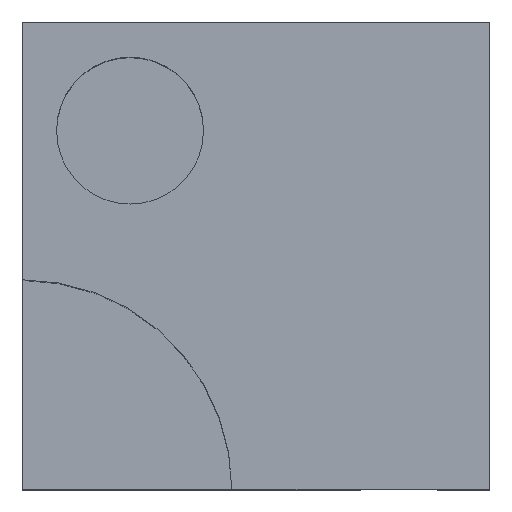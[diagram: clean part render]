
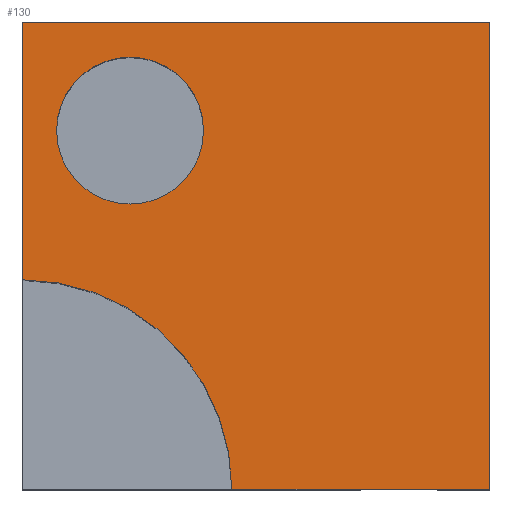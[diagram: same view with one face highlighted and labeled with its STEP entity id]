
A CAD part, top view. The second image highlights one B-rep face of the part: STEP entity #130.
In plain terms, the highlighted planar face has unit normal (0, 0, 1).
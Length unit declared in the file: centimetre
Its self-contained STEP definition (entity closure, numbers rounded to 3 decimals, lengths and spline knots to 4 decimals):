
#9 = EDGE_CURVE ( 'NONE', #236, #337, #165, .T. ) ;
#22 = CARTESIAN_POINT ( 'NONE',  ( 387.7069, 767.5334, 1000. ) ) ;
#27 = VERTEX_POINT ( 'NONE', #455 ) ;
#31 = CARTESIAN_POINT ( 'NONE',  ( 73.1794, 767.5334, 1000. ) ) ;
#32 = ORIENTED_EDGE ( 'NONE', *, *, #371, .T. ) ;
#36 = VERTEX_POINT ( 'NONE', #268 ) ;
#39 = DIRECTION ( 'NONE',  ( 1., 0., 0. ) ) ;
#68 = VERTEX_POINT ( 'NONE', #179 ) ;
#84 = AXIS2_PLACEMENT_3D ( 'NONE', #232, #421, #260 ) ;
#93 = DIRECTION ( 'NONE',  ( 1., 0., 0. ) ) ;
#102 = ORIENTED_EDGE ( 'NONE', *, *, #282, .F. ) ;
#118 = VECTOR ( 'NONE', #197, 100. ) ;
#130 = ADVANCED_FACE ( 'NONE', ( #499, #430 ), #425, .T. ) ;
#132 = CARTESIAN_POINT ( 'NONE',  ( 0., 1000., 1000. ) ) ;
#134 = LINE ( 'NONE', #132, #471 ) ;
#139 = VECTOR ( 'NONE', #375, 100. ) ;
#149 = DIRECTION ( 'NONE',  ( 1., 0., 0. ) ) ;
#154 = VERTEX_POINT ( 'NONE', #333 ) ;
#163 = VERTEX_POINT ( 'NONE', #234 ) ;
#165 = CIRCLE ( 'NONE', #330, 157.2638 ) ;
#179 = CARTESIAN_POINT ( 'NONE',  ( 1000., 0., 1000. ) ) ;
#192 = ORIENTED_EDGE ( 'NONE', *, *, #418, .F. ) ;
#197 = DIRECTION ( 'NONE',  ( 0., 1., 0. ) ) ;
#198 = ORIENTED_EDGE ( 'NONE', *, *, #287, .T. ) ;
#203 = AXIS2_PLACEMENT_3D ( 'NONE', #257, #458, #149 ) ;
#205 = ORIENTED_EDGE ( 'NONE', *, *, #486, .T. ) ;
#232 = CARTESIAN_POINT ( 'NONE',  ( 0., 0., 1000. ) ) ;
#234 = CARTESIAN_POINT ( 'NONE',  ( 1000., 1000., 1000. ) ) ;
#235 = AXIS2_PLACEMENT_3D ( 'NONE', #288, #448, #93 ) ;
#236 = VERTEX_POINT ( 'NONE', #22 ) ;
#257 = CARTESIAN_POINT ( 'NONE',  ( 0., 0., 1000. ) ) ;
#260 = DIRECTION ( 'NONE',  ( 1., 0., 0. ) ) ;
#268 = CARTESIAN_POINT ( 'NONE',  ( 0., 448.2014, 1000. ) ) ;
#278 = ORIENTED_EDGE ( 'NONE', *, *, #9, .F. ) ;
#279 = LINE ( 'NONE', #350, #118 ) ;
#282 = EDGE_CURVE ( 'NONE', #27, #36, #397, .T. ) ;
#287 = EDGE_CURVE ( 'NONE', #163, #154, #381, .T. ) ;
#288 = CARTESIAN_POINT ( 'NONE',  ( 230.4432, 767.5334, 1000. ) ) ;
#294 = CARTESIAN_POINT ( 'NONE',  ( 230.4432, 767.5334, 1000. ) ) ;
#329 = ORIENTED_EDGE ( 'NONE', *, *, #383, .T. ) ;
#330 = AXIS2_PLACEMENT_3D ( 'NONE', #294, #374, #380 ) ;
#333 = CARTESIAN_POINT ( 'NONE',  ( 0., 1000., 1000. ) ) ;
#337 = VERTEX_POINT ( 'NONE', #31 ) ;
#350 = CARTESIAN_POINT ( 'NONE',  ( 1000., 1000., 1000. ) ) ;
#360 = LINE ( 'NONE', #472, #496 ) ;
#371 = EDGE_CURVE ( 'NONE', #27, #68, #360, .T. ) ;
#374 = DIRECTION ( 'NONE',  ( 0., 0., 1. ) ) ;
#375 = DIRECTION ( 'NONE',  ( -1., 0., 0. ) ) ;
#380 = DIRECTION ( 'NONE',  ( 1., 0., 0. ) ) ;
#381 = LINE ( 'NONE', #415, #139 ) ;
#383 = EDGE_CURVE ( 'NONE', #68, #163, #279, .T. ) ;
#384 = CIRCLE ( 'NONE', #235, 157.2638 ) ;
#397 = CIRCLE ( 'NONE', #84, 448.2014 ) ;
#415 = CARTESIAN_POINT ( 'NONE',  ( 0., 1000., 1000. ) ) ;
#418 = EDGE_CURVE ( 'NONE', #337, #236, #384, .T. ) ;
#421 = DIRECTION ( 'NONE',  ( 0., 0., 1. ) ) ;
#425 = PLANE ( 'NONE',  #203 ) ;
#430 = FACE_OUTER_BOUND ( 'NONE', #478, .T. ) ;
#448 = DIRECTION ( 'NONE',  ( 0., 0., 1. ) ) ;
#449 = DIRECTION ( 'NONE',  ( 0., -1., 0. ) ) ;
#455 = CARTESIAN_POINT ( 'NONE',  ( 448.2014, 0., 1000. ) ) ;
#458 = DIRECTION ( 'NONE',  ( 0., 0., 1. ) ) ;
#471 = VECTOR ( 'NONE', #449, 100. ) ;
#472 = CARTESIAN_POINT ( 'NONE',  ( 0., 0., 1000. ) ) ;
#478 = EDGE_LOOP ( 'NONE', ( #102, #32, #329, #198, #205 ) ) ;
#486 = EDGE_CURVE ( 'NONE', #154, #36, #134, .T. ) ;
#496 = VECTOR ( 'NONE', #39, 100. ) ;
#499 = FACE_BOUND ( 'NONE', #500, .T. ) ;
#500 = EDGE_LOOP ( 'NONE', ( #278, #192 ) ) ;
